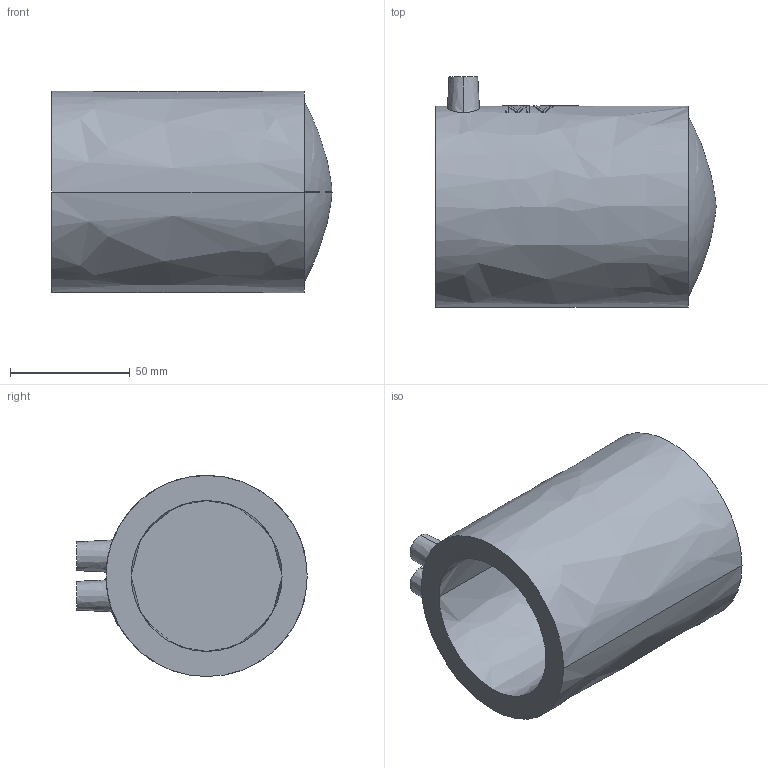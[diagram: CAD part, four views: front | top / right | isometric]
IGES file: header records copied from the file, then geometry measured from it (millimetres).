
Start section:  PTC IGES file: mv_d63.igs
Global section: file name: mv_d63.igs; native system: Pro/ENGINEER by Parametric Technology Corporation; preprocessor: 2006140; author: muellerc; organization: Unknown; date: 20060803.100030; units: millimetre
Bounding box: 117 x 96.2 x 84 mm (x, y, z)
Surface area: 51232.5 mm2 (no closed solid volume)
Topology: 0 solids, 0 shells, 53 faces, 325 edges, 330 vertices
Faces by surface type: bspline 53
